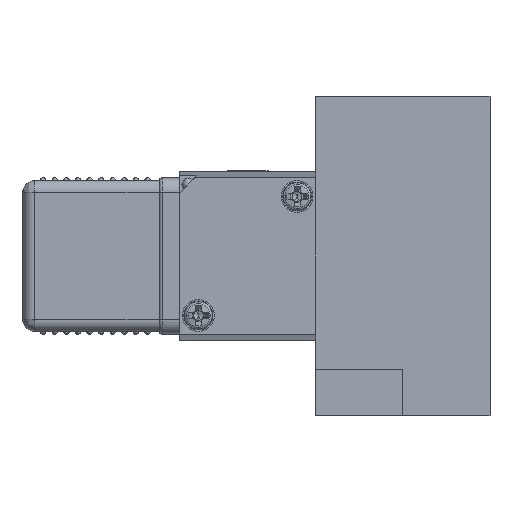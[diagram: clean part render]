
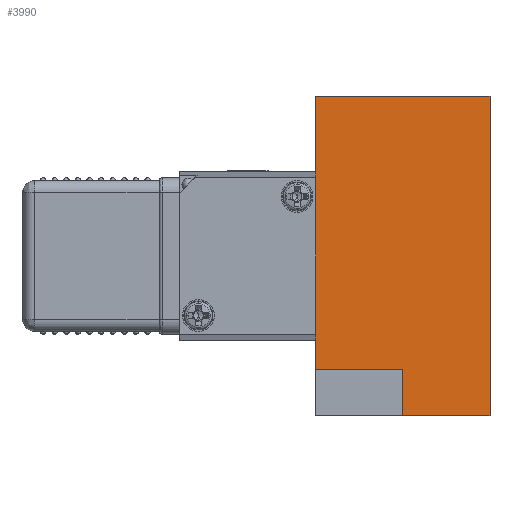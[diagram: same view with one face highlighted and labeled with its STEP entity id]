
A CAD part, left-side view. The second image highlights one B-rep face of the part: STEP entity #3990.
In plain terms, the highlighted planar face has unit normal (-1, 0, 0).
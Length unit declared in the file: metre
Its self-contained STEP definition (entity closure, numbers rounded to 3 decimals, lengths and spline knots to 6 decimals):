
#89 = ORIENTED_EDGE ( 'NONE', *, *, #16856, .F. ) ;
#306 = LINE ( 'NONE', #11146, #22284 ) ;
#676 = CARTESIAN_POINT ( 'NONE',  ( -0.034, 0., 0.0275 ) ) ;
#1299 = VECTOR ( 'NONE', #21300, 1. ) ;
#1693 = LINE ( 'NONE', #12487, #16560 ) ;
#2032 = ORIENTED_EDGE ( 'NONE', *, *, #6390, .F. ) ;
#2134 = ORIENTED_EDGE ( 'NONE', *, *, #11511, .T. ) ;
#3716 = VECTOR ( 'NONE', #14824, 1. ) ;
#3990 = ADVANCED_FACE ( 'NONE', ( #17239 ), #20747, .F. ) ;
#4186 = ORIENTED_EDGE ( 'NONE', *, *, #14188, .T. ) ;
#4324 = DIRECTION ( 'NONE',  ( 0., 0., -1. ) ) ;
#4362 = DIRECTION ( 'NONE',  ( 0., 0., 1. ) ) ;
#6390 = EDGE_CURVE ( 'NONE', #7619, #10713, #12109, .T. ) ;
#6742 = CARTESIAN_POINT ( 'NONE',  ( -0.034, 0., -0.0195 ) ) ;
#7034 = DIRECTION ( 'NONE',  ( 0., 1., 0. ) ) ;
#7619 = VERTEX_POINT ( 'NONE', #25055 ) ;
#9453 = CARTESIAN_POINT ( 'NONE',  ( -0.034, 0., -0.0275 ) ) ;
#9878 = VECTOR ( 'NONE', #4324, 1. ) ;
#10544 = CARTESIAN_POINT ( 'NONE',  ( -0.034, 0.015, -0.0195 ) ) ;
#10617 = CARTESIAN_POINT ( 'NONE',  ( -0.034, 0.015, 0. ) ) ;
#10667 = VERTEX_POINT ( 'NONE', #6742 ) ;
#10713 = VERTEX_POINT ( 'NONE', #18932 ) ;
#10811 = CARTESIAN_POINT ( 'NONE',  ( -0.034, -0.015, 0.0275 ) ) ;
#11146 = CARTESIAN_POINT ( 'NONE',  ( -0.034, -0.015, 0. ) ) ;
#11511 = EDGE_CURVE ( 'NONE', #18957, #16700, #25664, .T. ) ;
#11688 = ORIENTED_EDGE ( 'NONE', *, *, #14534, .F. ) ;
#12109 = LINE ( 'NONE', #9453, #1299 ) ;
#12487 = CARTESIAN_POINT ( 'NONE',  ( -0.034, 0., 0. ) ) ;
#13342 = ORIENTED_EDGE ( 'NONE', *, *, #22483, .F. ) ;
#14188 = EDGE_CURVE ( 'NONE', #25006, #18957, #19799, .T. ) ;
#14209 = VECTOR ( 'NONE', #7034, 1. ) ;
#14534 = EDGE_CURVE ( 'NONE', #10667, #16700, #24686, .T. ) ;
#14824 = DIRECTION ( 'NONE',  ( 0., 1., 0. ) ) ;
#16560 = VECTOR ( 'NONE', #4362, 1. ) ;
#16700 = VERTEX_POINT ( 'NONE', #10544 ) ;
#16856 = EDGE_CURVE ( 'NONE', #25006, #7619, #306, .T. ) ;
#17239 = FACE_OUTER_BOUND ( 'NONE', #24293, .T. ) ;
#18215 = CARTESIAN_POINT ( 'NONE',  ( -0.034, 0.015, 0.0275 ) ) ;
#18932 = CARTESIAN_POINT ( 'NONE',  ( -0.034, 0., -0.0275 ) ) ;
#18957 = VERTEX_POINT ( 'NONE', #18215 ) ;
#19799 = LINE ( 'NONE', #676, #3716 ) ;
#20391 = AXIS2_PLACEMENT_3D ( 'NONE', #22424, #22370, #23333 ) ;
#20747 = PLANE ( 'NONE',  #20391 ) ;
#21067 = DIRECTION ( 'NONE',  ( 0., 0., -1. ) ) ;
#21300 = DIRECTION ( 'NONE',  ( 0., 1., 0. ) ) ;
#22284 = VECTOR ( 'NONE', #21067, 1. ) ;
#22370 = DIRECTION ( 'NONE',  ( 1., 0., 0. ) ) ;
#22424 = CARTESIAN_POINT ( 'NONE',  ( -0.034, -0.015, 0.0275 ) ) ;
#22483 = EDGE_CURVE ( 'NONE', #10713, #10667, #1693, .T. ) ;
#23006 = CARTESIAN_POINT ( 'NONE',  ( -0.034, 0., -0.0195 ) ) ;
#23333 = DIRECTION ( 'NONE',  ( 0., 0., -1. ) ) ;
#24293 = EDGE_LOOP ( 'NONE', ( #11688, #13342, #2032, #89, #4186, #2134 ) ) ;
#24686 = LINE ( 'NONE', #23006, #14209 ) ;
#25006 = VERTEX_POINT ( 'NONE', #10811 ) ;
#25055 = CARTESIAN_POINT ( 'NONE',  ( -0.034, -0.015, -0.0275 ) ) ;
#25664 = LINE ( 'NONE', #10617, #9878 ) ;
